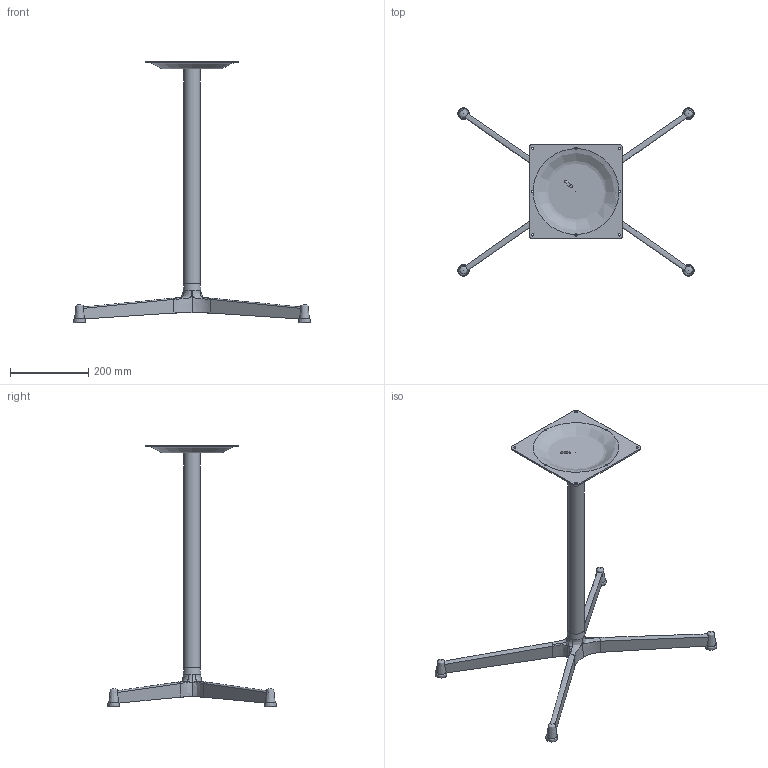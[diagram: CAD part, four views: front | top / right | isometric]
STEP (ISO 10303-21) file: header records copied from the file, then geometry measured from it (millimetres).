
FILE_DESCRIPTION(/* description */ (''),/* implementation_level */ '2;1');
FILE_NAME(/* name */ 'KINSOH~1',/* time_stamp */ '2026-01-21T20:20:48+09:00',/* author */ (''),/* organization */ (''),/* preprocessor_version */ 'ST-DEVELOPER v16.5',/* originating_system */ '',/* authorisation */ '');
FILE_SCHEMA (('AUTOMOTIVE_DESIGN'));
Length unit declared in the file: millimetre
Products named in the file (1): Document
Bounding box: 606 x 431 x 670 mm (x, y, z)
Volume: 1064721.1 mm3; surface area: 350646.6 mm2
Topology: 6 solids, 15 shells, 86 faces, 261 edges, 164 vertices
Faces by surface type: bspline 73, plane 13
Entity records: 8464 total; most frequent: CARTESIAN_POINT 7104, ORIENTED_EDGE 417, EDGE_CURVE 247, VERTEX_POINT 164, B_SPLINE_CURVE_WITH_KNOTS 111, EDGE_LOOP 98, ADVANCED_FACE 86, FACE_OUTER_BOUND 86
